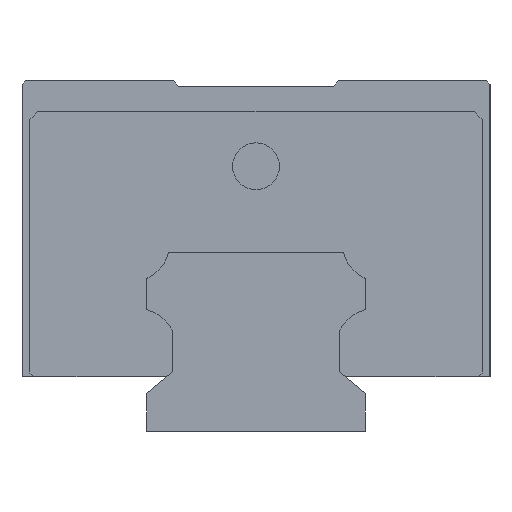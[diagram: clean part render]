
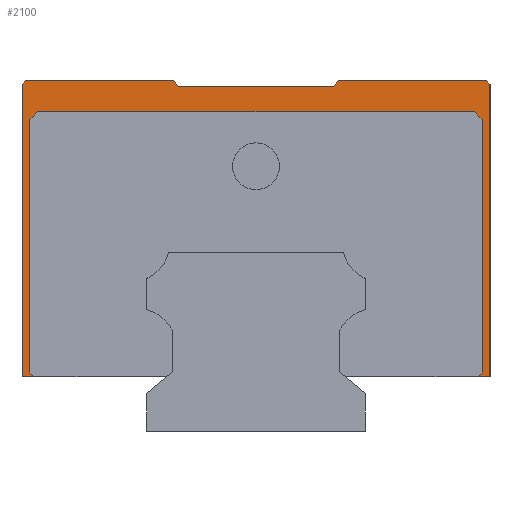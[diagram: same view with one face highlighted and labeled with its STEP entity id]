
A CAD part, left-side view. The second image highlights one B-rep face of the part: STEP entity #2100.
In plain terms, the highlighted planar face has unit normal (-1, 0, 0).
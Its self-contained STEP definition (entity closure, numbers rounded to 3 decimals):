
#53 = LINE ( 'NONE', #4561, #5079 ) ;
#99 = VECTOR ( 'NONE', #2088, 1000. ) ;
#125 = ORIENTED_EDGE ( 'NONE', *, *, #2488, .T. ) ;
#167 = VECTOR ( 'NONE', #4893, 1000. ) ;
#175 = ORIENTED_EDGE ( 'NONE', *, *, #2051, .F. ) ;
#192 = VECTOR ( 'NONE', #3647, 1000. ) ;
#211 = VECTOR ( 'NONE', #4442, 1000. ) ;
#242 = DIRECTION ( 'NONE',  ( 0., 0., -1. ) ) ;
#305 = DIRECTION ( 'NONE',  ( 1., 0., 0. ) ) ;
#348 = EDGE_CURVE ( 'NONE', #4100, #5467, #5283, .T. ) ;
#403 = VECTOR ( 'NONE', #3085, 1000. ) ;
#405 = CARTESIAN_POINT ( 'NONE',  ( -52.5, 28.5, 7. ) ) ;
#460 = ORIENTED_EDGE ( 'NONE', *, *, #4673, .F. ) ;
#497 = VERTEX_POINT ( 'NONE', #3189 ) ;
#544 = EDGE_CURVE ( 'NONE', #2885, #4102, #4099, .T. ) ;
#547 = EDGE_CURVE ( 'NONE', #2454, #2972, #53, .T. ) ;
#590 = VECTOR ( 'NONE', #3963, 1000. ) ;
#616 = ORIENTED_EDGE ( 'NONE', *, *, #5781, .F. ) ;
#683 = EDGE_CURVE ( 'NONE', #497, #3283, #1127, .T. ) ;
#716 = CARTESIAN_POINT ( 'NONE',  ( -52.5, -29., 40. ) ) ;
#743 = VERTEX_POINT ( 'NONE', #2503 ) ;
#784 = CARTESIAN_POINT ( 'NONE',  ( -52.5, -10., 44.25 ) ) ;
#805 = VERTEX_POINT ( 'NONE', #4373 ) ;
#811 = CARTESIAN_POINT ( 'NONE',  ( -52.5, -30., 45. ) ) ;
#838 = CARTESIAN_POINT ( 'NONE',  ( -52.5, -10.629, 45. ) ) ;
#866 = DIRECTION ( 'NONE',  ( 0., 0., 1. ) ) ;
#910 = CARTESIAN_POINT ( 'NONE',  ( -52.5, 29., 40. ) ) ;
#941 = EDGE_CURVE ( 'NONE', #805, #3283, #3677, .T. ) ;
#995 = CARTESIAN_POINT ( 'NONE',  ( -52.5, -28., 41. ) ) ;
#1020 = CARTESIAN_POINT ( 'NONE',  ( -52.5, 29.5, 45. ) ) ;
#1026 = CARTESIAN_POINT ( 'NONE',  ( -52.5, 30., 7. ) ) ;
#1073 = LINE ( 'NONE', #1467, #3339 ) ;
#1079 = VERTEX_POINT ( 'NONE', #2407 ) ;
#1092 = CARTESIAN_POINT ( 'NONE',  ( -52.5, 28., 41. ) ) ;
#1127 = LINE ( 'NONE', #4210, #2922 ) ;
#1166 = CARTESIAN_POINT ( 'NONE',  ( -52.5, 10., 44.25 ) ) ;
#1278 = CARTESIAN_POINT ( 'NONE',  ( -52.5, -30., 45. ) ) ;
#1316 = ORIENTED_EDGE ( 'NONE', *, *, #547, .T. ) ;
#1352 = EDGE_CURVE ( 'NONE', #4896, #1079, #2173, .T. ) ;
#1373 = DIRECTION ( 'NONE',  ( 0., -0.707, 0.707 ) ) ;
#1414 = ORIENTED_EDGE ( 'NONE', *, *, #683, .T. ) ;
#1439 = DIRECTION ( 'NONE',  ( 0., -1., 0. ) ) ;
#1463 = ORIENTED_EDGE ( 'NONE', *, *, #941, .F. ) ;
#1467 = CARTESIAN_POINT ( 'NONE',  ( -52.5, 30., 45. ) ) ;
#1475 = VECTOR ( 'NONE', #866, 1000. ) ;
#1520 = ORIENTED_EDGE ( 'NONE', *, *, #3637, .T. ) ;
#1630 = VERTEX_POINT ( 'NONE', #1653 ) ;
#1637 = VERTEX_POINT ( 'NONE', #5229 ) ;
#1653 = CARTESIAN_POINT ( 'NONE',  ( -52.5, 29., 40. ) ) ;
#1720 = LINE ( 'NONE', #4903, #1475 ) ;
#1724 = DIRECTION ( 'NONE',  ( 0., 0.707, -0.707 ) ) ;
#1737 = DIRECTION ( 'NONE',  ( 0., 1., 0. ) ) ;
#1749 = CARTESIAN_POINT ( 'NONE',  ( -52.5, 10., 44.25 ) ) ;
#1879 = CARTESIAN_POINT ( 'NONE',  ( -52.5, -29., 7.5 ) ) ;
#1976 = DIRECTION ( 'NONE',  ( 0., -0.707, -0.707 ) ) ;
#2051 = EDGE_CURVE ( 'NONE', #497, #3951, #5310, .T. ) ;
#2063 = DIRECTION ( 'NONE',  ( 0., 0.707, 0.707 ) ) ;
#2088 = DIRECTION ( 'NONE',  ( 0., 1., 0. ) ) ;
#2100 = ADVANCED_FACE ( 'NONE', ( #4850 ), #3460, .F. ) ;
#2119 = LINE ( 'NONE', #405, #211 ) ;
#2132 = CARTESIAN_POINT ( 'NONE',  ( -52.5, -30., 7. ) ) ;
#2145 = LINE ( 'NONE', #2610, #99 ) ;
#2158 = EDGE_CURVE ( 'NONE', #4655, #743, #2119, .T. ) ;
#2173 = LINE ( 'NONE', #5644, #2341 ) ;
#2269 = CARTESIAN_POINT ( 'NONE',  ( -52.5, 30., 45. ) ) ;
#2341 = VECTOR ( 'NONE', #1724, 1000. ) ;
#2407 = CARTESIAN_POINT ( 'NONE',  ( -52.5, -28.5, 7. ) ) ;
#2454 = VERTEX_POINT ( 'NONE', #1092 ) ;
#2488 = EDGE_CURVE ( 'NONE', #805, #4100, #4877, .T. ) ;
#2503 = CARTESIAN_POINT ( 'NONE',  ( -52.5, 29., 7.5 ) ) ;
#2543 = CARTESIAN_POINT ( 'NONE',  ( -52.5, 29.5, 45. ) ) ;
#2544 = VECTOR ( 'NONE', #3242, 1000. ) ;
#2610 = CARTESIAN_POINT ( 'NONE',  ( -52.5, -30., 7. ) ) ;
#2630 = CARTESIAN_POINT ( 'NONE',  ( -52.5, 10.629, 45. ) ) ;
#2659 = ORIENTED_EDGE ( 'NONE', *, *, #3597, .F. ) ;
#2762 = AXIS2_PLACEMENT_3D ( 'NONE', #811, #305, #1737 ) ;
#2787 = CARTESIAN_POINT ( 'NONE',  ( -52.5, -28., 41. ) ) ;
#2858 = CARTESIAN_POINT ( 'NONE',  ( -52.5, -10., 44.25 ) ) ;
#2885 = VERTEX_POINT ( 'NONE', #2543 ) ;
#2922 = VECTOR ( 'NONE', #2063, 1000. ) ;
#2972 = VERTEX_POINT ( 'NONE', #2787 ) ;
#3002 = CARTESIAN_POINT ( 'NONE',  ( -52.5, -29.5, 45. ) ) ;
#3065 = LINE ( 'NONE', #1749, #167 ) ;
#3085 = DIRECTION ( 'NONE',  ( 0., 0., -1. ) ) ;
#3109 = VERTEX_POINT ( 'NONE', #5040 ) ;
#3115 = CARTESIAN_POINT ( 'NONE',  ( -52.5, 11.769, 7. ) ) ;
#3123 = DIRECTION ( 'NONE',  ( 0., 1., 0. ) ) ;
#3189 = CARTESIAN_POINT ( 'NONE',  ( -52.5, -30., 44.5 ) ) ;
#3242 = DIRECTION ( 'NONE',  ( 0., 0.707, -0.707 ) ) ;
#3255 = ORIENTED_EDGE ( 'NONE', *, *, #5271, .T. ) ;
#3269 = DIRECTION ( 'NONE',  ( 0., -1., 0. ) ) ;
#3273 = LINE ( 'NONE', #995, #5766 ) ;
#3283 = VERTEX_POINT ( 'NONE', #3002 ) ;
#3339 = VECTOR ( 'NONE', #1439, 1000. ) ;
#3460 = PLANE ( 'NONE',  #2762 ) ;
#3469 = VECTOR ( 'NONE', #3123, 1000. ) ;
#3597 = EDGE_CURVE ( 'NONE', #2885, #3977, #1073, .T. ) ;
#3637 = EDGE_CURVE ( 'NONE', #2972, #3109, #3273, .T. ) ;
#3647 = DIRECTION ( 'NONE',  ( 0., -1., 0. ) ) ;
#3677 = LINE ( 'NONE', #2269, #192 ) ;
#3741 = VECTOR ( 'NONE', #242, 1000. ) ;
#3951 = VERTEX_POINT ( 'NONE', #2132 ) ;
#3963 = DIRECTION ( 'NONE',  ( 0., 0.643, -0.766 ) ) ;
#3977 = VERTEX_POINT ( 'NONE', #2630 ) ;
#4003 = LINE ( 'NONE', #910, #4708 ) ;
#4025 = LINE ( 'NONE', #3115, #4904 ) ;
#4040 = ORIENTED_EDGE ( 'NONE', *, *, #544, .T. ) ;
#4067 = EDGE_CURVE ( 'NONE', #5467, #3977, #3065, .T. ) ;
#4099 = LINE ( 'NONE', #1020, #2544 ) ;
#4100 = VERTEX_POINT ( 'NONE', #2858 ) ;
#4102 = VERTEX_POINT ( 'NONE', #5142 ) ;
#4184 = ORIENTED_EDGE ( 'NONE', *, *, #4776, .F. ) ;
#4210 = CARTESIAN_POINT ( 'NONE',  ( -52.5, -30., 44.5 ) ) ;
#4345 = EDGE_CURVE ( 'NONE', #1630, #2454, #4003, .T. ) ;
#4373 = CARTESIAN_POINT ( 'NONE',  ( -52.5, -10.629, 45. ) ) ;
#4392 = VECTOR ( 'NONE', #5009, 1000. ) ;
#4439 = DIRECTION ( 'NONE',  ( 0., 1., 0. ) ) ;
#4442 = DIRECTION ( 'NONE',  ( 0., 0.707, 0.707 ) ) ;
#4561 = CARTESIAN_POINT ( 'NONE',  ( -52.5, 28., 41. ) ) ;
#4593 = ORIENTED_EDGE ( 'NONE', *, *, #5069, .T. ) ;
#4625 = ORIENTED_EDGE ( 'NONE', *, *, #4067, .T. ) ;
#4634 = ORIENTED_EDGE ( 'NONE', *, *, #2158, .T. ) ;
#4655 = VERTEX_POINT ( 'NONE', #5673 ) ;
#4673 = EDGE_CURVE ( 'NONE', #3951, #1079, #2145, .T. ) ;
#4708 = VECTOR ( 'NONE', #1373, 1000. ) ;
#4776 = EDGE_CURVE ( 'NONE', #4655, #1637, #4025, .T. ) ;
#4838 = LINE ( 'NONE', #716, #3741 ) ;
#4850 = FACE_OUTER_BOUND ( 'NONE', #5323, .T. ) ;
#4877 = LINE ( 'NONE', #838, #590 ) ;
#4893 = DIRECTION ( 'NONE',  ( 0., 0.643, 0.766 ) ) ;
#4896 = VERTEX_POINT ( 'NONE', #1879 ) ;
#4903 = CARTESIAN_POINT ( 'NONE',  ( -52.5, 29., 7.5 ) ) ;
#4904 = VECTOR ( 'NONE', #4439, 1000. ) ;
#5009 = DIRECTION ( 'NONE',  ( 0., 0., 1. ) ) ;
#5040 = CARTESIAN_POINT ( 'NONE',  ( -52.5, -29., 40. ) ) ;
#5069 = EDGE_CURVE ( 'NONE', #3109, #4896, #4838, .T. ) ;
#5079 = VECTOR ( 'NONE', #3269, 1000. ) ;
#5089 = LINE ( 'NONE', #1026, #4392 ) ;
#5127 = ORIENTED_EDGE ( 'NONE', *, *, #1352, .T. ) ;
#5142 = CARTESIAN_POINT ( 'NONE',  ( -52.5, 30., 44.5 ) ) ;
#5229 = CARTESIAN_POINT ( 'NONE',  ( -52.5, 30., 7. ) ) ;
#5249 = ORIENTED_EDGE ( 'NONE', *, *, #348, .T. ) ;
#5271 = EDGE_CURVE ( 'NONE', #743, #1630, #1720, .T. ) ;
#5283 = LINE ( 'NONE', #784, #3469 ) ;
#5310 = LINE ( 'NONE', #1278, #403 ) ;
#5323 = EDGE_LOOP ( 'NONE', ( #4184, #4634, #3255, #5799, #1316, #1520, #4593, #5127, #460, #175, #1414, #1463, #125, #5249, #4625, #2659, #4040, #616 ) ) ;
#5467 = VERTEX_POINT ( 'NONE', #1166 ) ;
#5644 = CARTESIAN_POINT ( 'NONE',  ( -52.5, -29., 7.5 ) ) ;
#5673 = CARTESIAN_POINT ( 'NONE',  ( -52.5, 28.5, 7. ) ) ;
#5766 = VECTOR ( 'NONE', #1976, 1000. ) ;
#5781 = EDGE_CURVE ( 'NONE', #1637, #4102, #5089, .T. ) ;
#5799 = ORIENTED_EDGE ( 'NONE', *, *, #4345, .T. ) ;
